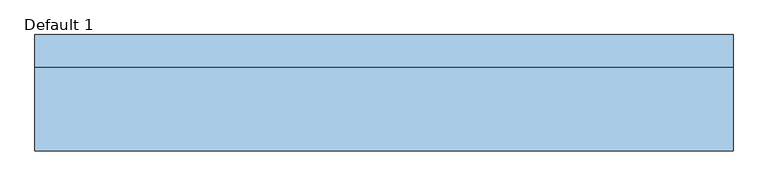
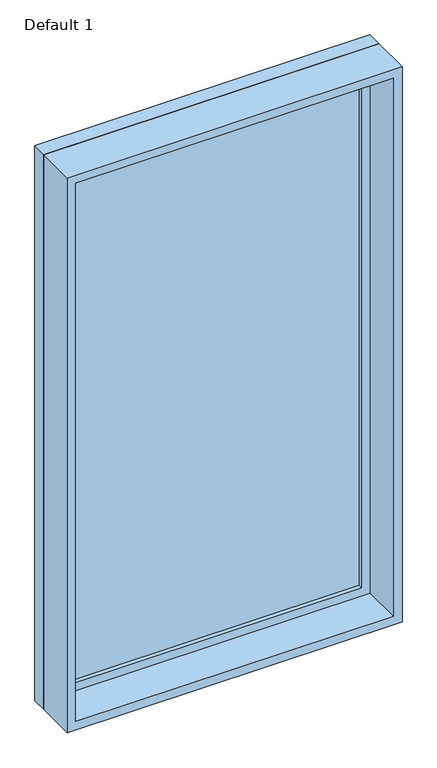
"""IFC4 building model written with IfcOpenShell, lengths in millimetres: window geometry, Planitar-Fixed : Default 1."""

from ifc_helpers import new_model, si_unit, frame, origin, place, context, project, spatial, polyline, outline, extrude, source, transform, mapped, element, save


def default_1_39be3eb0(model_context):
    return source(origin(), model_context, "Body", "SweptSolid", [
        extrude(outline(polyline([(3029.0, -590.6), (933.4, -590.6), (933.4, 590.6), (3029.0, 590.6), (3029.0, -590.6)]), holes=[polyline([(2985.0, -546.6), (2985.0, 546.6), (977.4, 546.6), (977.4, -546.6), (2985.0, -546.6)])]), frame((0.0, 57.9, 0.0), z_axis=(0.0, 1.0, 0.0), x_axis=(0.0, 0.0, 1.0)), (0.0, 0.0, 1.0), 44.0),
        extrude(outline(polyline([(3048.0, -609.6), (914.4, -609.6), (914.4, 609.6), (3048.0, 609.6), (3048.0, -609.6)]), holes=[polyline([(3029.0, -590.6), (3029.0, 590.6), (933.4, 590.6), (933.4, -590.6), (3029.0, -590.6)])]), frame((0.0, 57.9, 0.0), z_axis=(0.0, 1.0, 0.0), x_axis=(0.0, 0.0, 1.0)), (0.0, 0.0, 1.0), 56.7),
        extrude(outline(polyline([(3048.0, -609.6), (914.4, -609.6), (914.4, 609.6), (3048.0, 609.6), (3048.0, -609.6)]), holes=[polyline([(3016.0, -577.6), (3016.0, 577.6), (946.4, 577.6), (946.4, -577.6), (3016.0, -577.6)])]), frame((0.0, -88.6, 0.0), z_axis=(0.0, 1.0, 0.0), x_axis=(0.0, 0.0, 1.0)), (0.0, 0.0, 1.0), 146.5),
        extrude(outline(polyline([(-546.6, 85.9), (546.6, 85.9), (546.6, 73.9), (-546.6, 73.9), (-546.6, 85.9)])), frame((0.0, 0.0, 977.4), z_axis=(0.0, 0.0, 1.0), x_axis=(1.0, 0.0, 0.0)), (0.0, 0.0, 1.0), 2007.6),
    ])


if __name__ == "__main__":
    model = new_model("IFC4")
    model_context = context("Model", 3, world=origin())
    ifc_project = project(units=[si_unit("LENGTHUNIT", "METRE", prefix="MILLI")], contexts=[model_context])
    site = spatial("IfcSite", under=ifc_project)
    building = spatial("IfcBuilding", under=site)
    placement = place(None, origin())
    default_1_shape = default_1_39be3eb0(model_context)
    element("IfcWindow", 1, ObjectType="Planitar-Fixed : Default 1", at=placement, inside=building, context=model_context, shape_type="MappedRepresentation", body=[
        mapped(default_1_shape, transform((0.0, 0.0, 0.0), x_axis=(1.0, 0.0, 0.0), y_axis=(0.0, 1.0, 0.0), z_axis=(0.0, 0.0, 1.0))),
    ])
    save(model, "model.ifc")
